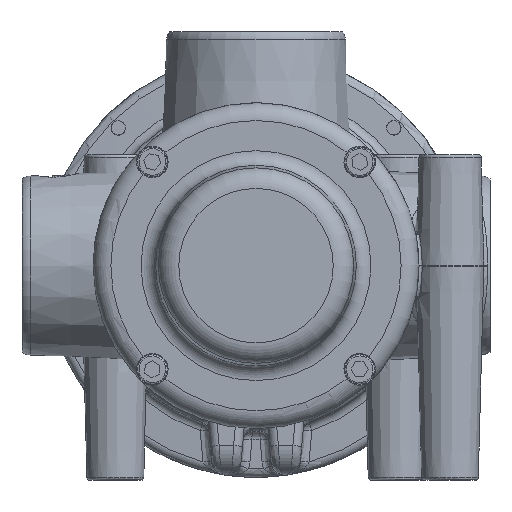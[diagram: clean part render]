
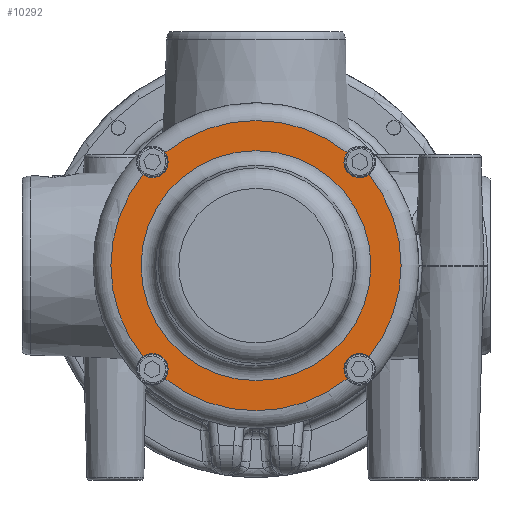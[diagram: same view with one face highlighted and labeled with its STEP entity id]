
A CAD part, front view. The second image highlights one B-rep face of the part: STEP entity #10292.
In plain terms, the highlighted planar face has unit normal (0, -1, 0).
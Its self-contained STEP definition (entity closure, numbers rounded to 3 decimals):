
#1885=FACE_BOUND('',#2976,.T.);
#2049=PLANE('',#11012);
#2288=FACE_OUTER_BOUND('',#2975,.T.);
#2975=EDGE_LOOP('',(#6693,#6694,#6695,#6696,#6697,#6698,#6699,#6700));
#2976=EDGE_LOOP('',(#6701));
#3806=CIRCLE('',#10992,5.308);
#3807=CIRCLE('',#10994,5.308);
#3808=CIRCLE('',#10996,5.308);
#3809=CIRCLE('',#10998,5.308);
#3811=CIRCLE('',#11001,49.);
#3812=CIRCLE('',#11002,49.);
#3813=CIRCLE('',#11003,49.);
#3814=CIRCLE('',#11004,49.);
#3818=CIRCLE('',#11011,38.818);
#4270=VERTEX_POINT('',#14563);
#4271=VERTEX_POINT('',#14564);
#4272=VERTEX_POINT('',#14595);
#4273=VERTEX_POINT('',#14596);
#4274=VERTEX_POINT('',#14629);
#4275=VERTEX_POINT('',#14630);
#4276=VERTEX_POINT('',#14663);
#4277=VERTEX_POINT('',#14664);
#4282=VERTEX_POINT('',#14710);
#5219=EDGE_CURVE('',#4270,#4271,#3806,.T.);
#5221=EDGE_CURVE('',#4272,#4273,#3807,.T.);
#5223=EDGE_CURVE('',#4274,#4275,#3808,.T.);
#5225=EDGE_CURVE('',#4276,#4277,#3809,.T.);
#5228=EDGE_CURVE('',#4270,#4277,#3811,.T.);
#5229=EDGE_CURVE('',#4276,#4275,#3812,.T.);
#5230=EDGE_CURVE('',#4274,#4273,#3813,.T.);
#5231=EDGE_CURVE('',#4272,#4271,#3814,.T.);
#5235=EDGE_CURVE('',#4282,#4282,#3818,.T.);
#6693=ORIENTED_EDGE('',*,*,#5219,.T.);
#6694=ORIENTED_EDGE('',*,*,#5231,.F.);
#6695=ORIENTED_EDGE('',*,*,#5221,.T.);
#6696=ORIENTED_EDGE('',*,*,#5230,.F.);
#6697=ORIENTED_EDGE('',*,*,#5223,.T.);
#6698=ORIENTED_EDGE('',*,*,#5229,.F.);
#6699=ORIENTED_EDGE('',*,*,#5225,.T.);
#6700=ORIENTED_EDGE('',*,*,#5228,.F.);
#6701=ORIENTED_EDGE('',*,*,#5235,.T.);
#10292=ADVANCED_FACE('',(#2288,#1885),#2049,.T.);
#10992=AXIS2_PLACEMENT_3D('',#14565,#12039,#12040);
#10994=AXIS2_PLACEMENT_3D('',#14597,#12043,#12044);
#10996=AXIS2_PLACEMENT_3D('',#14631,#12047,#12048);
#10998=AXIS2_PLACEMENT_3D('',#14665,#12051,#12052);
#11001=AXIS2_PLACEMENT_3D('',#14697,#12057,#12058);
#11002=AXIS2_PLACEMENT_3D('',#14698,#12059,#12060);
#11003=AXIS2_PLACEMENT_3D('',#14699,#12061,#12062);
#11004=AXIS2_PLACEMENT_3D('',#14700,#12063,#12064);
#11011=AXIS2_PLACEMENT_3D('',#14711,#12077,#12078);
#11012=AXIS2_PLACEMENT_3D('',#14712,#12079,#12080);
#12039=DIRECTION('center_axis',(0.,1.,0.));
#12040=DIRECTION('ref_axis',(-1.,0.,0.));
#12043=DIRECTION('center_axis',(0.,1.,0.));
#12044=DIRECTION('ref_axis',(-1.,0.,0.));
#12047=DIRECTION('center_axis',(0.,1.,0.));
#12048=DIRECTION('ref_axis',(-1.,0.,0.));
#12051=DIRECTION('center_axis',(0.,1.,0.));
#12052=DIRECTION('ref_axis',(-1.,0.,0.));
#12057=DIRECTION('center_axis',(0.,1.,0.));
#12058=DIRECTION('ref_axis',(-1.,0.,0.));
#12059=DIRECTION('center_axis',(0.,1.,0.));
#12060=DIRECTION('ref_axis',(-1.,0.,0.));
#12061=DIRECTION('center_axis',(0.,1.,0.));
#12062=DIRECTION('ref_axis',(-1.,0.,0.));
#12063=DIRECTION('center_axis',(0.,1.,0.));
#12064=DIRECTION('ref_axis',(-1.,0.,0.));
#12077=DIRECTION('center_axis',(0.,1.,0.));
#12078=DIRECTION('ref_axis',(-1.,0.,0.));
#12079=DIRECTION('center_axis',(0.,-1.,0.));
#12080=DIRECTION('ref_axis',(0.,0.,
-1.));
#14563=CARTESIAN_POINT('',(38.161,-7.,30.736));
#14564=CARTESIAN_POINT('',(30.736,-7.,38.161));
#14565=CARTESIAN_POINT('Origin',(35.,-7.,35.));
#14595=CARTESIAN_POINT('',(-30.736,-7.,38.161));
#14596=CARTESIAN_POINT('',(-38.161,-7.,30.736));
#14597=CARTESIAN_POINT('Origin',(-35.,-7.,35.));
#14629=CARTESIAN_POINT('',(-38.161,-7.,-30.736));
#14630=CARTESIAN_POINT('',(-30.736,-7.,-38.161));
#14631=CARTESIAN_POINT('Origin',(-35.,-7.,-35.));
#14663=CARTESIAN_POINT('',(30.736,-7.,-38.161));
#14664=CARTESIAN_POINT('',(38.161,-7.,-30.736));
#14665=CARTESIAN_POINT('Origin',(35.,-7.,-35.));
#14697=CARTESIAN_POINT('Origin',(0.,-7.,
0.));
#14698=CARTESIAN_POINT('Origin',(0.,-7.,
0.));
#14699=CARTESIAN_POINT('Origin',(0.,-7.,
0.));
#14700=CARTESIAN_POINT('Origin',(0.,-7.,
0.));
#14710=CARTESIAN_POINT('',(-38.818,-7.,0.));
#14711=CARTESIAN_POINT('Origin',(0.,-7.,
0.));
#14712=CARTESIAN_POINT('Origin',(-43.909,-7.,0.));
